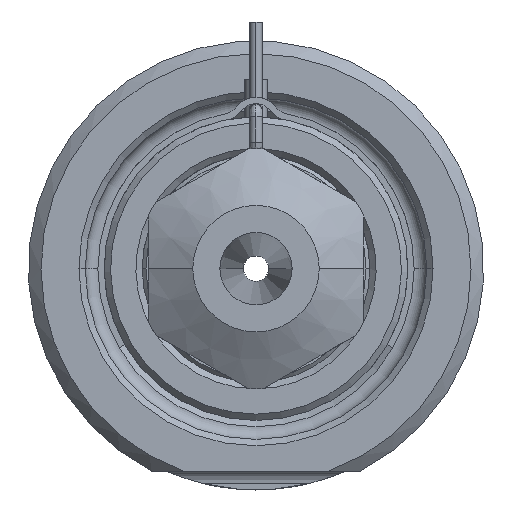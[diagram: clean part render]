
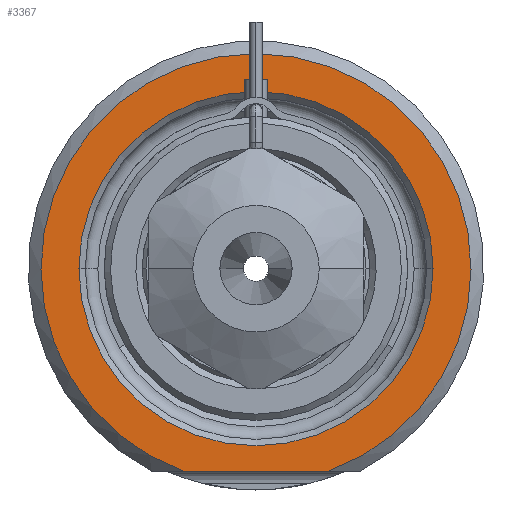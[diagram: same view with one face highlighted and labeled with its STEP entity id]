
A CAD part, front view. The second image highlights one B-rep face of the part: STEP entity #3367.
In plain terms, the highlighted planar face has unit normal (0, -1, 0).
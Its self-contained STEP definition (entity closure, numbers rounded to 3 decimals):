
#678=DIRECTION('',(1.,0.,0.));
#679=VECTOR('',#678,11.489);
#680=CARTESIAN_POINT('',(-5.745,0.,-16.));
#681=LINE('',#680,#679);
#682=CARTESIAN_POINT('',(0.,0.,0.));
#683=DIRECTION('',(0.,1.,0.));
#684=DIRECTION('',(-1.,0.,0.));
#685=AXIS2_PLACEMENT_3D('',#682,#683,#684);
#687=CARTESIAN_POINT('',(0.,0.,0.));
#688=DIRECTION('',(0.,1.,0.));
#689=DIRECTION('',(1.,0.,0.));
#690=AXIS2_PLACEMENT_3D('',#687,#688,#689);
#794=CARTESIAN_POINT('',(0.,0.,0.));
#795=DIRECTION('',(0.,-1.,0.));
#796=DIRECTION('',(0.338,0.,-0.941));
#797=AXIS2_PLACEMENT_3D('',#794,#795,#796);
#2157=CARTESIAN_POINT('',(-14.,0.,0.));
#2158=CARTESIAN_POINT('',(14.,0.,0.));
#2159=VERTEX_POINT('',#2157);
#2160=VERTEX_POINT('',#2158);
#2197=CARTESIAN_POINT('',(-5.745,0.,-16.));
#2198=CARTESIAN_POINT('',(5.745,0.,-16.));
#2199=VERTEX_POINT('',#2197);
#2200=VERTEX_POINT('',#2198);
#3351=CARTESIAN_POINT('',(0.,0.,0.));
#3352=DIRECTION('',(0.,-1.,0.));
#3353=DIRECTION('',(1.,0.,0.));
#3354=AXIS2_PLACEMENT_3D('',#3351,#3352,#3353);
#3355=PLANE('',#3354);
#3357=ORIENTED_EDGE('',*,*,#3356,.F.);
#3359=ORIENTED_EDGE('',*,*,#3358,.F.);
#3360=EDGE_LOOP('',(#3357,#3359));
#3361=FACE_OUTER_BOUND('',#3360,.F.);
#3363=ORIENTED_EDGE('',*,*,#3362,.F.);
#3364=ORIENTED_EDGE('',*,*,#3341,.F.);
#3365=EDGE_LOOP('',(#3363,#3364));
#3366=FACE_BOUND('',#3365,.F.);
#3367=ADVANCED_FACE('',(#3361,#3366),#3355,.T.);
#686=CIRCLE('',#685,14.);
#691=CIRCLE('',#690,14.);
#798=CIRCLE('',#797,17.);
#3341=EDGE_CURVE('',#2160,#2159,#691,.T.);
#3356=EDGE_CURVE('',#2199,#2200,#681,.T.);
#3358=EDGE_CURVE('',#2200,#2199,#798,.T.);
#3362=EDGE_CURVE('',#2159,#2160,#686,.T.);
